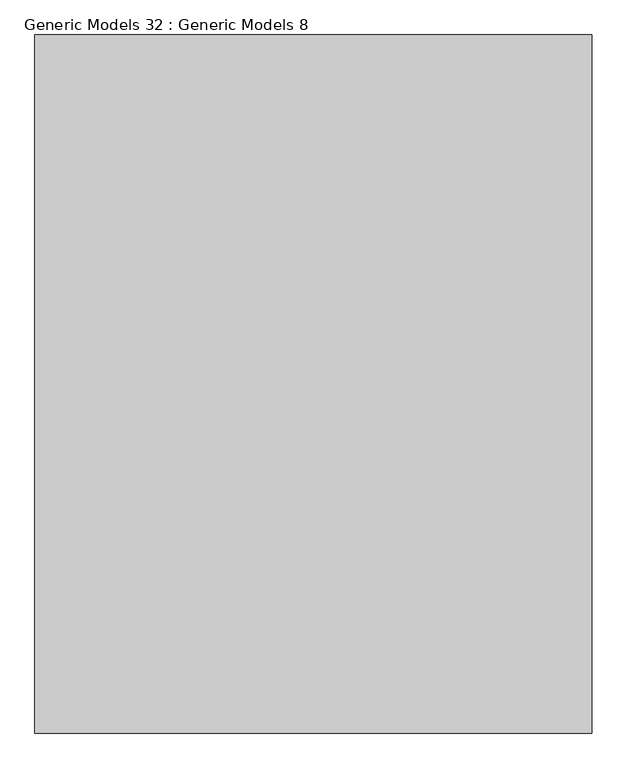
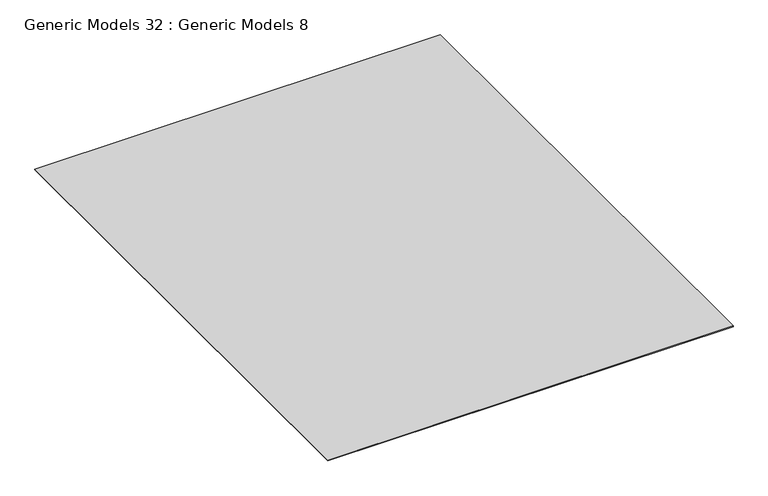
"""IFC4 building model written with IfcOpenShell, lengths in millimetres: proxy geometry, Generic Models 32 : Generic Models 8."""

from ifc_helpers import new_model, si_unit, origin, origin_with_axes, place, context, project, spatial, polyline, outline, extrude, source, transform, mapped, element, save


def generic_models_32_generic_models_8_0a6a5476(model_context):
    return source(origin(), model_context, "Body", "SweptSolid", [
        extrude(outline(polyline([(97532.1164175, 24579.1842947), (97532.1164175, 21325.9233453), (94934.7838788, 21325.9233453), (94934.7838788, 24579.1842947), (97532.1164175, 24579.1842947)])), origin_with_axes(), (0.0, 0.0, 1.0), 5.0),
    ])


if __name__ == "__main__":
    model = new_model("IFC4")
    model_context = context("Model", 3, world=origin())
    ifc_project = project(units=[si_unit("LENGTHUNIT", "METRE", prefix="MILLI")], contexts=[model_context])
    site = spatial("IfcSite", under=ifc_project)
    building = spatial("IfcBuilding", under=site)
    placement = place(None, origin())
    generic_models_32_generic_models_8_shape = generic_models_32_generic_models_8_0a6a5476(model_context)
    element("IfcBuildingElementProxy", 1, Name="Generic Models 32 : Generic Models 8", ObjectType="Generic Models 32 : Generic Models 8", at=placement, inside=building, context=model_context, shape_type="MappedRepresentation", body=[
        mapped(generic_models_32_generic_models_8_shape, transform((0.0, 0.0, 0.0), x_axis=(1.0, 0.0, 0.0), y_axis=(0.0, 1.0, 0.0), z_axis=(0.0, 0.0, 1.0))),
    ])
    save(model, "model.ifc")
